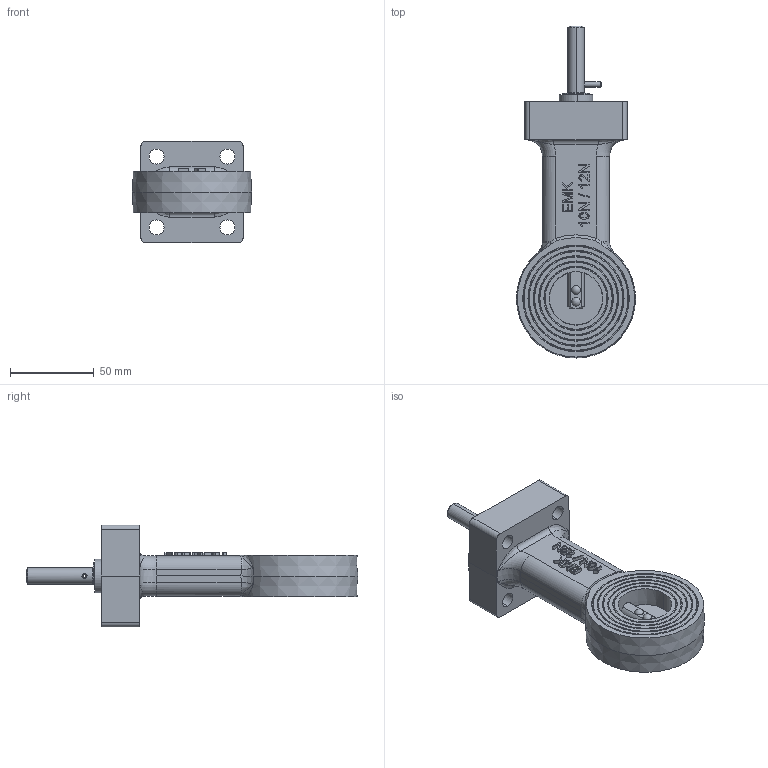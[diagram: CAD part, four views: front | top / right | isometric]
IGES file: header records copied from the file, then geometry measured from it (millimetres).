
Global section: file name: No Iges File Name specified; native system: AutoDesk Inventor R12.0; preprocessor: AutoDesk Inventor Iges Exporter R12.0; date: 20100818.095956; units: millimetre
Bounding box: 71.3 x 198.65 x 61 mm (x, y, z)
Volume: 218963.2 mm3; surface area: 46215.4 mm2
Topology: 1 solids, 1 shells, 429 faces, 1109 edges, 712 vertices
Faces by surface type: plane 211, bspline 105, cylinder 43, revolution 38, cone 24, sphere 4, torus 4
